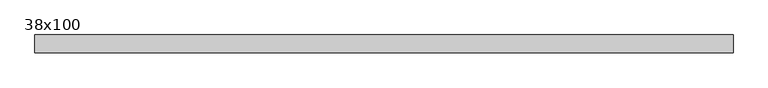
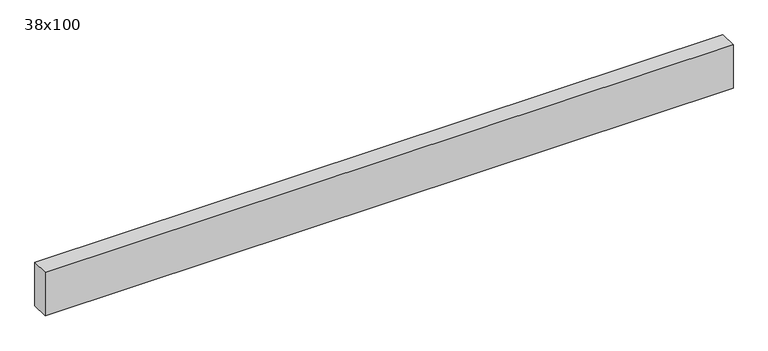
"""IFC4 building model written with IfcOpenShell, lengths in millimetres: beam geometry, Poutre - Bois de construction de dimensions courantes : 38x100."""

from ifc_helpers import new_model, si_unit, frame, origin, place, context, project, spatial, polyline, outline, extrude, source, transform, mapped, element, save


def beam_38x100_cbdba47d(model_context):
    return source(origin(), model_context, "Body", "SweptSolid", [
        extrude(outline(polyline([(668.0, 19.05), (668.0, -19.05), (-828.0, -19.05), (-828.0, 19.05), (668.0, 19.05)])), frame((0.0, 0.0, -50.0), z_axis=(0.0, 0.0, 1.0), x_axis=(1.0, 0.0, 0.0)), (0.0, 0.0, 1.0), 100.0),
    ])


if __name__ == "__main__":
    model = new_model("IFC4")
    model_context = context("Model", 3, world=origin())
    ifc_project = project(units=[si_unit("LENGTHUNIT", "METRE", prefix="MILLI")], contexts=[model_context])
    site = spatial("IfcSite", under=ifc_project)
    building = spatial("IfcBuilding", under=site)
    placement = place(None, origin())
    beam_38x100_shape = beam_38x100_cbdba47d(model_context)
    element("IfcBeam", 1, ObjectType="Poutre - Bois de construction de dimensions courantes : 38x100", at=placement, inside=building, context=model_context, shape_type="MappedRepresentation", body=[
        mapped(beam_38x100_shape, transform((0.0, 0.0, 0.0), x_axis=(1.0, 0.0, 0.0), y_axis=(0.0, 1.0, 0.0), z_axis=(0.0, 0.0, 1.0))),
    ])
    save(model, "model.ifc")
